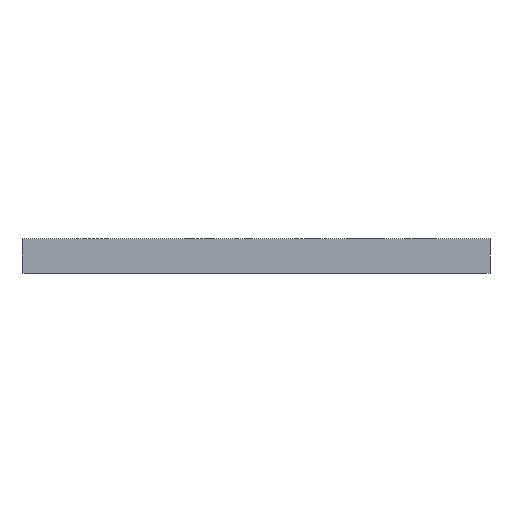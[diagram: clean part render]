
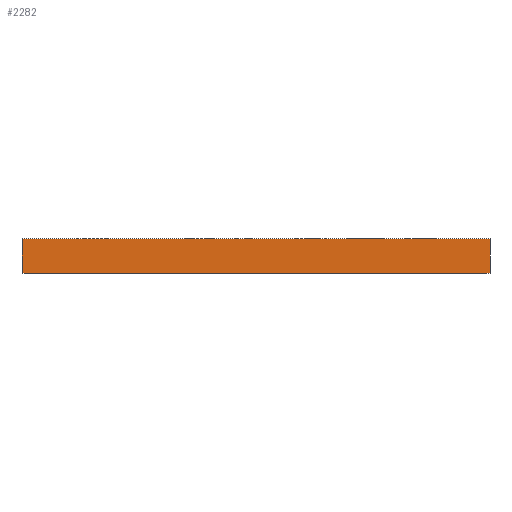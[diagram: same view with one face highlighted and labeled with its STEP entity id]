
A CAD part, front view. The second image highlights one B-rep face of the part: STEP entity #2282.
In plain terms, the highlighted planar face has unit normal (0, -1, 0).
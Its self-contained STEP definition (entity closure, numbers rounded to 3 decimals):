
#2=DIRECTION('',(1.,0.,0.));
#3=VECTOR('',#2,30.);
#4=CARTESIAN_POINT('',(-15.,-20.,0.));
#5=LINE('',#4,#3);
#34=DIRECTION('',(0.,0.,1.));
#35=VECTOR('',#34,2.2);
#36=CARTESIAN_POINT('',(-15.,-20.,0.));
#37=LINE('',#36,#35);
#46=DIRECTION('',(0.,0.,1.));
#47=VECTOR('',#46,2.2);
#48=CARTESIAN_POINT('',(15.,-20.,0.));
#49=LINE('',#48,#47);
#50=DIRECTION('',(1.,0.,0.));
#51=VECTOR('',#50,30.);
#52=CARTESIAN_POINT('',(-15.,-20.,2.2));
#53=LINE('',#52,#51);
#1698=CARTESIAN_POINT('',(-15.,-20.,0.));
#1699=CARTESIAN_POINT('',(15.,-20.,0.));
#1700=VERTEX_POINT('',#1698);
#1701=VERTEX_POINT('',#1699);
#1706=CARTESIAN_POINT('',(-15.,-20.,2.2));
#1707=CARTESIAN_POINT('',(15.,-20.,2.2));
#1708=VERTEX_POINT('',#1706);
#1709=VERTEX_POINT('',#1707);
#2268=CARTESIAN_POINT('',(-15.,-20.,0.));
#2269=DIRECTION('',(0.,-1.,0.));
#2270=DIRECTION('',(1.,0.,0.));
#2271=AXIS2_PLACEMENT_3D('',#2268,#2269,#2270);
#2272=PLANE('',#2271);
#2273=ORIENTED_EDGE('',*,*,#2247,.F.);
#2275=ORIENTED_EDGE('',*,*,#2274,.T.);
#2277=ORIENTED_EDGE('',*,*,#2276,.T.);
#2279=ORIENTED_EDGE('',*,*,#2278,.F.);
#2280=EDGE_LOOP('',(#2273,#2275,#2277,#2279));
#2281=FACE_OUTER_BOUND('',#2280,.F.);
#2282=ADVANCED_FACE('',(#2281),#2272,.T.);
#2247=EDGE_CURVE('',#1700,#1701,#5,.T.);
#2274=EDGE_CURVE('',#1700,#1708,#37,.T.);
#2276=EDGE_CURVE('',#1708,#1709,#53,.T.);
#2278=EDGE_CURVE('',#1701,#1709,#49,.T.);
